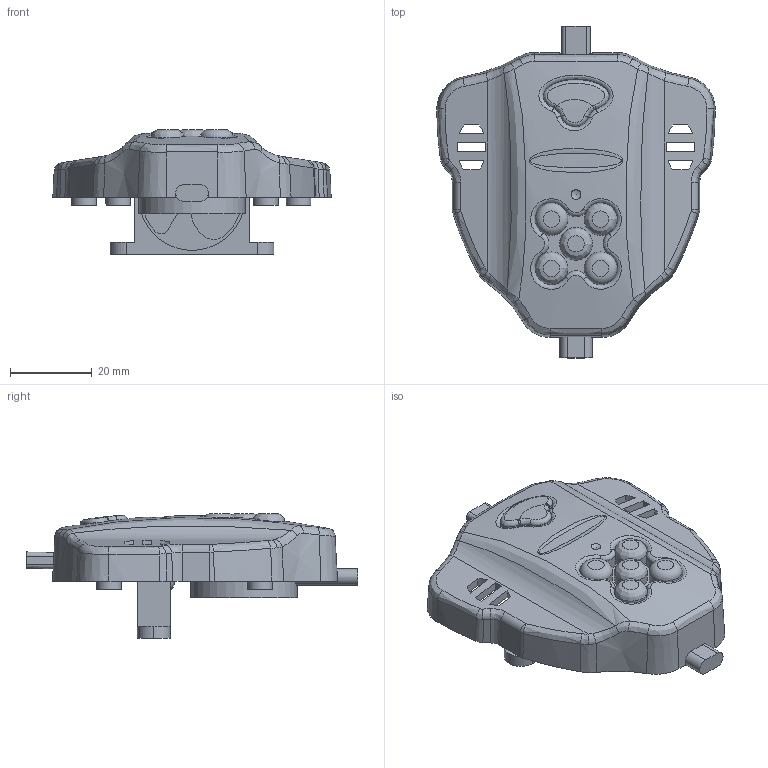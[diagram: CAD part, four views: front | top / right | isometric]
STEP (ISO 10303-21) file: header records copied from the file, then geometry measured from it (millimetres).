
FILE_DESCRIPTION(/* description */ (''),/* implementation_level */ '2;1');
FILE_NAME(/* name */ '样题9.stp',/* time_stamp */ '2022-03-14T16:11:03+08:00',/* author */ (''),/* organization */ (''),/* preprocessor_version */ 'ST-DEVELOPER v16',/* originating_system */ 'SIEMENS PLM Software NX 10.0',/* authorisation */ '');
FILE_SCHEMA (('AUTOMOTIVE_DESIGN { 1 0 10303 214 3 1 1 1 }'));
Length unit declared in the file: millimetre
Products named in the file (7): 前盖2; 红外射线头2; 风扇2; 摄像头2; USB插头2; 电源线2; 样题9
Assembly tree (6 placements, depth 2):
  样题9
    电源线2
    USB插头2
    摄像头2
    风扇2
    红外射线头2
    前盖2
Bounding box: 67.97 x 81.04 x 30.5 mm (x, y, z)
Volume: 27768.7 mm3; surface area: 21165 mm2
Topology: 6 solids, 6 shells, 455 faces, 1179 edges, 755 vertices
Faces by surface type: plane 150, cylinder 114, bspline 112, cone 52, extrusion 24, torus 2, sphere 1
Full cylindrical faces by diameter (mm): 2.8 x2, 3 x6, 3.3 x2, 5 x1, 6 x8, 8 x5, 26 x2
Entity records: 18004 total; most frequent: CARTESIAN_POINT 7486, ORIENTED_EDGE 2234, DIRECTION 1971, EDGE_CURVE 1117, AXIS2_PLACEMENT_3D 758, VERTEX_POINT 738, EDGE_LOOP 543, ADVANCED_FACE 455
